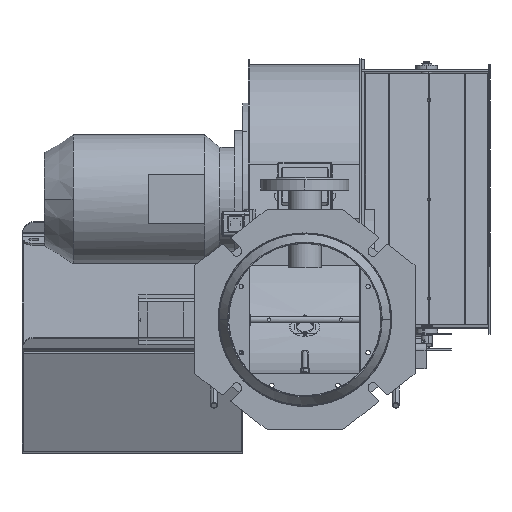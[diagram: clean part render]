
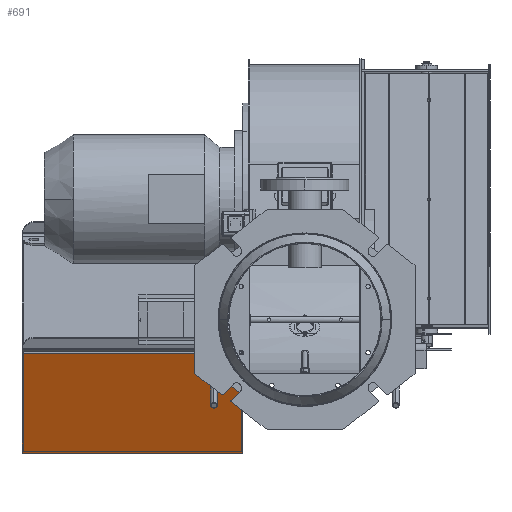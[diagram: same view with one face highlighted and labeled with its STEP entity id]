
A CAD part, front view. The second image highlights one B-rep face of the part: STEP entity #691.
In plain terms, the highlighted planar face has unit normal (0, -0.906, -0.423).
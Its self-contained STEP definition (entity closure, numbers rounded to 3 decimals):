
#691 = ADVANCED_FACE ( 'NONE', ( #95482 ), #67529, .T. ) ;
#1929 = VERTEX_POINT ( 'NONE', #101570 ) ;
#7568 = DIRECTION ( 'NONE',  ( -1., 0., 0. ) ) ;
#7945 = CARTESIAN_POINT ( 'NONE',  ( -113.249, -145.38, -279.394 ) ) ;
#8501 = AXIS2_PLACEMENT_3D ( 'NONE', #7945, #65839, #96706 ) ;
#12113 = EDGE_CURVE ( 'NONE', #69000, #1929, #27574, .T. ) ;
#20395 = CARTESIAN_POINT ( 'NONE',  ( -113.249, -60.857, -460.656 ) ) ;
#22339 = CARTESIAN_POINT ( 'NONE',  ( -113.249, -60.857, -460.656 ) ) ;
#24299 = LINE ( 'NONE', #126644, #35188 ) ;
#27574 = LINE ( 'NONE', #83505, #30659 ) ;
#30659 = VECTOR ( 'NONE', #103048, 1000. ) ;
#35188 = VECTOR ( 'NONE', #106251, 1000. ) ;
#39699 = ORIENTED_EDGE ( 'NONE', *, *, #12113, .T. ) ;
#39932 = VERTEX_POINT ( 'NONE', #48932 ) ;
#40947 = EDGE_CURVE ( 'NONE', #123164, #69000, #85486, .T. ) ;
#43069 = VECTOR ( 'NONE', #7568, 1000. ) ;
#45608 = EDGE_CURVE ( 'NONE', #1929, #39932, #69454, .T. ) ;
#48932 = CARTESIAN_POINT ( 'NONE',  ( -513.249, -145.38, -279.394 ) ) ;
#50750 = EDGE_CURVE ( 'NONE', #39932, #123164, #24299, .T. ) ;
#58029 = ORIENTED_EDGE ( 'NONE', *, *, #50750, .T. ) ;
#64416 = CARTESIAN_POINT ( 'NONE',  ( -513.249, -60.857, -460.656 ) ) ;
#65839 = DIRECTION ( 'NONE',  ( 0., -0.906, -0.423 ) ) ;
#67529 = PLANE ( 'NONE',  #8501 ) ;
#67916 = ORIENTED_EDGE ( 'NONE', *, *, #40947, .T. ) ;
#68315 = VECTOR ( 'NONE', #91922, 1000. ) ;
#69000 = VERTEX_POINT ( 'NONE', #20395 ) ;
#69454 = LINE ( 'NONE', #126724, #43069 ) ;
#80962 = EDGE_LOOP ( 'NONE', ( #39699, #100259, #58029, #67916 ) ) ;
#83505 = CARTESIAN_POINT ( 'NONE',  ( -113.249, -145.38, -279.394 ) ) ;
#85486 = LINE ( 'NONE', #22339, #68315 ) ;
#91922 = DIRECTION ( 'NONE',  ( 1., 0., 0. ) ) ;
#95482 = FACE_OUTER_BOUND ( 'NONE', #80962, .T. ) ;
#96706 = DIRECTION ( 'NONE',  ( -1., 0., 0. ) ) ;
#100259 = ORIENTED_EDGE ( 'NONE', *, *, #45608, .T. ) ;
#101570 = CARTESIAN_POINT ( 'NONE',  ( -113.249, -145.38, -279.394 ) ) ;
#103048 = DIRECTION ( 'NONE',  ( 0., -0.423, 0.906 ) ) ;
#106251 = DIRECTION ( 'NONE',  ( 0., 0.423, -0.906 ) ) ;
#123164 = VERTEX_POINT ( 'NONE', #64416 ) ;
#126644 = CARTESIAN_POINT ( 'NONE',  ( -513.249, -145.38, -279.394 ) ) ;
#126724 = CARTESIAN_POINT ( 'NONE',  ( -513.249, -145.38, -279.394 ) ) ;
